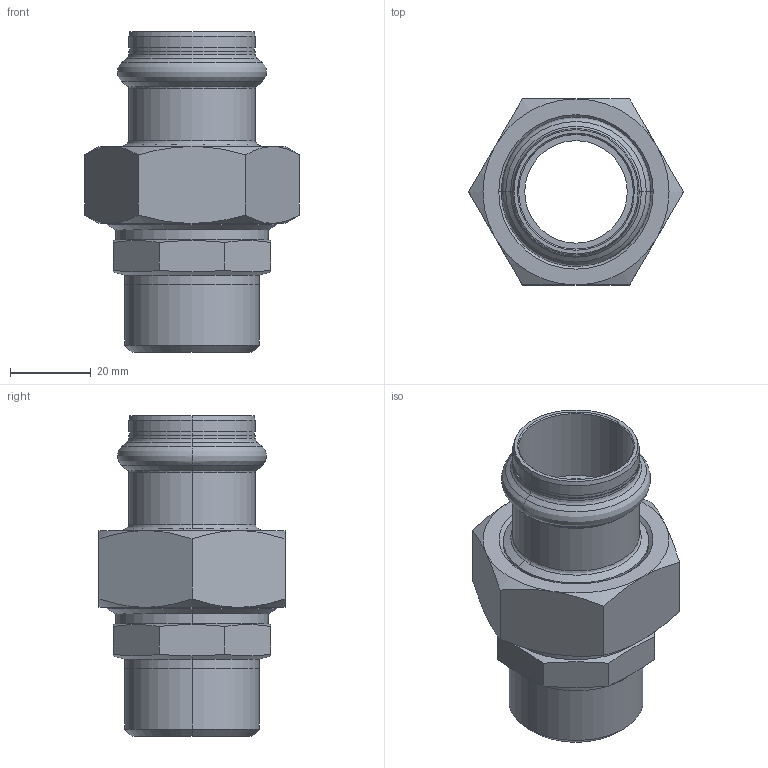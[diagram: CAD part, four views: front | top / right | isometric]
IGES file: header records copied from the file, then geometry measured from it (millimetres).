
Start section: Elysium IGES Interface
Global section: file name: F:\3d modellen sudo\S-Pr VP\SP6331GV\6331GVW281.igs; native system: CoCreate Modeling 17.00A  17-Jun-2010; preprocessor: CoCreate IGES_3D V2.2; author: Unknown; organization: Unknown; date: 20130128.163009; units: millimetre
Bounding box: 53.12 x 46 x 79.3 mm (x, y, z)
Volume: 43235.2 mm3; surface area: 24429.2 mm2
Topology: 3 solids, 3 shells, 122 faces, 286 edges, 168 vertices
Faces by surface type: bspline 122
